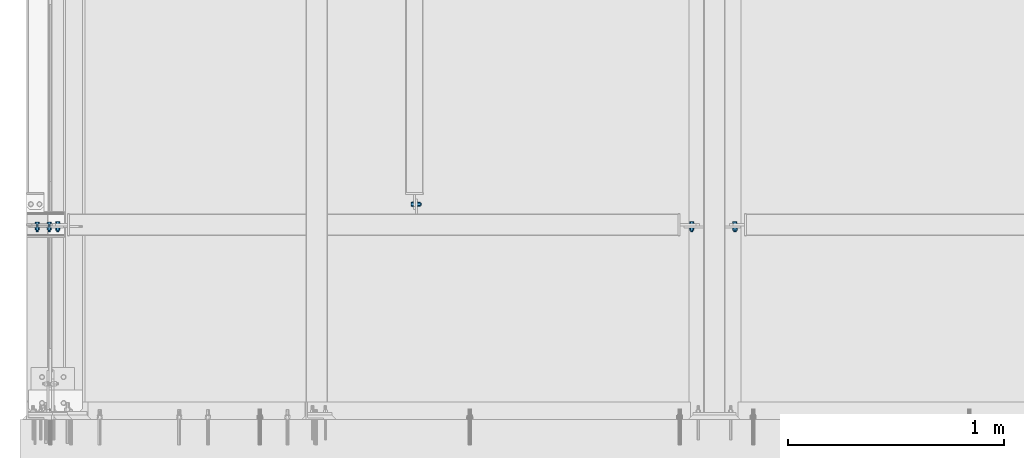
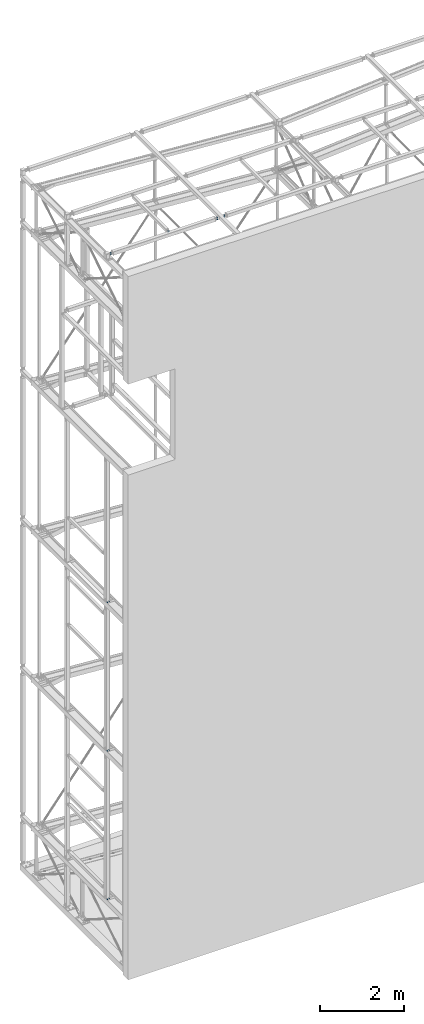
# One storey, part 231 of 271: 7 mechanical fasteners, 6 elements without a shape of their own.
"""IFC2X3 building model written with IfcOpenShell, lengths in millimetres."""

from ifc_helpers import new_model, si_unit, frame, frame_2d, origin_with_axes, origin_2d_with_axis, place, context, subcontext, project, spatial, polyline, circle_curve, parameter, trimmed, segment, composite_curve, circle, outline, extrude, source, transform, mapped, material, type_object, element, aggregate, save


model = new_model("IFC2X3")

# Units and contexts
model_context = context("Model", 3, precision=1e-05, world=origin_with_axes())
body_context = subcontext(model_context, "Body", "Model", "MODEL_VIEW")
ifc_project = project(units=[si_unit("LENGTHUNIT", "METRE", prefix="MILLI"), si_unit("AREAUNIT", "SQUARE_METRE"), si_unit("VOLUMEUNIT", "CUBIC_METRE"), si_unit("MASSUNIT", "GRAM", prefix="KILO"), si_unit("TIMEUNIT", "SECOND"), si_unit("PLANEANGLEUNIT", "RADIAN"), si_unit("SOLIDANGLEUNIT", "STERADIAN"), si_unit("THERMODYNAMICTEMPERATUREUNIT", "DEGREE_CELSIUS"), si_unit("LUMINOUSINTENSITYUNIT", "LUMEN")], contexts=[model_context])

# Site, building, storey
site_placement = place(None, origin_with_axes())
site = spatial("IfcSite", under=ifc_project, at=site_placement, Name="Undefined", CompositionType="ELEMENT")
building_placement = place(site_placement, origin_with_axes())
building = spatial("IfcBuilding", under=site, at=building_placement, Name="Undefined", CompositionType="ELEMENT")
storey_placement = place(building_placement, origin_with_axes())
storey = spatial("IfcBuildingStorey", under=building, at=storey_placement, Name="Undefined", CompositionType="ELEMENT", Elevation=0.0)

# Assembly, mechanical fastener
assembly_1_placement = place(storey_placement, origin_with_axes())
assembly_1 = element("IfcElementAssembly", 1, at=assembly_1_placement, inside=storey, AssemblyPlace="NOTDEFINED", PredefinedType="RIGID_FRAME")
ifc_material = material(Name="Undefined")
mechanical_fastener_type = type_object("IfcMechanicalFastenerType", Name="Bolt assembly")
shared_shape_1 = source(origin_with_axes(), body_context, "Body", "SweptSolid", [
    extrude(circle(Radius=6.5, at=origin_2d_with_axis()), frame((0.0, -5.1, 0.0), z_axis=(0.0, 1.0, 0.0), x_axis=(1.0, 0.0, 0.0)), (0.0, 0.0, 1.0), 10.1),
    extrude(circle(Radius=6.5, at=origin_2d_with_axis()), frame((0.0, -14.9000000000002, 0.0), z_axis=(0.0, 1.0, 0.0), x_axis=(1.0, 0.0, 0.0)), (0.0, 0.0, 1.0), 10.0),
    extrude(outline(polyline([(10.39230484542, 0.0), (5.19615242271, 9.00000000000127), (-5.19615242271, 9.00000000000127), (-10.39230484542, 0.0), (-5.19615242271, -9.00000000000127), (5.19615242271, -9.00000000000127), (10.39230484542, 0.0)])), frame((0.0, -25.0000000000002, 0.0), z_axis=(0.0, 1.0, 0.0), x_axis=(1.0, 0.0, 0.0)), (0.0, 0.0, 1.0), 7.5),
    extrude(circle(Radius=6.0, at=origin_2d_with_axis()), frame((0.0, -17.5000000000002, 0.0), z_axis=(0.0, 1.0, 0.0), x_axis=(1.0, 0.0, 0.0)), (0.0, 0.0, 1.0), 40.0),
    extrude(circle(Radius=12.0, at=origin_2d_with_axis()), frame((0.0, -17.5000000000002, 0.0), z_axis=(0.0, 1.0, 0.0), x_axis=(1.0, 0.0, 0.0)), (0.0, 0.0, 1.0), 2.5),
    extrude(circle(Radius=12.0, at=origin_2d_with_axis()), frame((0.0, 5.00000000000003, 0.0), z_axis=(0.0, 1.0, 0.0), x_axis=(1.0, 0.0, 0.0)), (0.0, 0.0, 1.0), 2.5),
    extrude(outline(polyline([(10.96965511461, 0.0), (5.484827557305, 9.50000000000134), (-5.484827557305, 9.50000000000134), (-10.96965511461, 0.0), (-5.484827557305, -9.50000000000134), (5.484827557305, -9.50000000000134), (10.96965511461, 0.0)])), frame((0.0, 7.50000000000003, 0.0), z_axis=(0.0, 1.0, 0.0), x_axis=(1.0, 0.0, 0.0)), (0.0, 0.0, 1.0), 10.0),
])
mechanical_fastener_1_placement = place(assembly_1_placement, frame((1791.37568709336, 994.32498425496, 20164.3499999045), z_axis=(0.0, 0.0, -1.0), x_axis=(0.0, 1.0, 0.0)))
mechanical_fastener_1 = element("IfcMechanicalFastener", 2, at=mechanical_fastener_1_placement, type_object=mechanical_fastener_type, material=ifc_material, Name="Bolt assembly", NominalDiameter=12.0, NominalLength=40.0, context=body_context, shape_type="MappedRepresentation", body=[
    mapped(shared_shape_1, transform((0.0, 0.0, -20.0))),
    mapped(shared_shape_1, transform((0.0, 0.0, 20.0))),
])
aggregate(assembly_1, [mechanical_fastener_1])

assembly_2_placement = place(storey_placement, origin_with_axes())
assembly_2 = element("IfcElementAssembly", 3, at=assembly_2_placement, inside=storey, AssemblyPlace="NOTDEFINED", PredefinedType="RIGID_FRAME")
mechanical_fastener_2_placement = place(assembly_2_placement, frame((133.375687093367, 889.32498425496, 20154.3499999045), z_axis=(0.0, 0.0, -1.0), x_axis=(1.0, 0.0, 0.0)))
mechanical_fastener_2 = element("IfcMechanicalFastener", 4, at=mechanical_fastener_2_placement, type_object=mechanical_fastener_type, material=ifc_material, Name="Bolt assembly", NominalDiameter=12.0, NominalLength=40.0, context=body_context, shape_type="MappedRepresentation", body=[
    mapped(shared_shape_1, transform((0.0, 0.0, -25.0))),
    mapped(shared_shape_1, transform((0.0, 0.0, 25.0))),
])

assembly_3_placement = place(storey_placement, origin_with_axes())
assembly_3 = element("IfcElementAssembly", 5, at=assembly_3_placement, inside=storey, AssemblyPlace="NOTDEFINED", PredefinedType="RIGID_FRAME")
mechanical_fastener_3_placement = place(assembly_3_placement, frame((3263.37568709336, 889.32498425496, 20154.3499999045), z_axis=(0.0, 0.0, -1.0), x_axis=(1.0, 0.0, 0.0)))
mechanical_fastener_3 = element("IfcMechanicalFastener", 6, at=mechanical_fastener_3_placement, type_object=mechanical_fastener_type, material=ifc_material, Name="Bolt assembly", NominalDiameter=12.0, NominalLength=40.0, context=body_context, shape_type="MappedRepresentation", body=[
    mapped(shared_shape_1, transform((0.0, 0.0, -25.0))),
    mapped(shared_shape_1, transform((0.0, 0.0, 25.0))),
])
aggregate(assembly_3, [mechanical_fastener_3])

assembly_4_placement = place(storey_placement, origin_with_axes())
assembly_4 = element("IfcElementAssembly", 7, at=assembly_4_placement, inside=storey, AssemblyPlace="NOTDEFINED", PredefinedType="RIGID_FRAME")
shared_shape_2 = source(origin_with_axes(), body_context, "Body", "SweptSolid", [
    extrude(circle(Radius=6.5, at=origin_2d_with_axis()), frame((0.0, 7.89999999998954, 0.0), z_axis=(0.0, 1.0, 0.0), x_axis=(1.0, 0.0, 0.0)), (0.0, 0.0, 1.0), 8.1),
    extrude(circle(Radius=6.5, at=origin_2d_with_axis()), frame((0.0, 0.0999999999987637, 0.0), z_axis=(0.0, 1.0, 0.0), x_axis=(1.0, 0.0, 0.0)), (0.0, 0.0, 1.0), 8.0),
    extrude(outline(polyline([(10.39230484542, 0.0), (5.19615242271, 9.00000000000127), (-5.19615242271, 9.00000000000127), (-10.39230484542, 0.0), (-5.19615242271, -9.00000000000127), (5.19615242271, -9.00000000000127), (10.39230484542, 0.0)])), frame((0.0, -10.0, 0.0), z_axis=(0.0, 1.0, 0.0), x_axis=(1.0, 0.0, 0.0)), (0.0, 0.0, 1.0), 7.5),
    extrude(circle(Radius=6.0, at=origin_2d_with_axis()), frame((0.0, -2.50000000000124, 0.0), z_axis=(0.0, 1.0, 0.0), x_axis=(1.0, 0.0, 0.0)), (0.0, 0.0, 1.0), 40.0),
    extrude(circle(Radius=12.0, at=origin_2d_with_axis()), frame((0.0, -2.50000000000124, 0.0), z_axis=(0.0, 1.0, 0.0), x_axis=(1.0, 0.0, 0.0)), (0.0, 0.0, 1.0), 2.5),
    extrude(circle(Radius=12.0, at=origin_2d_with_axis()), frame((0.0, 16.0, 0.0), z_axis=(0.0, 1.0, 0.0), x_axis=(1.0, 0.0, 0.0)), (0.0, 0.0, 1.0), 2.5),
    extrude(outline(polyline([(10.96965511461, 0.0), (5.484827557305, 9.50000000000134), (-5.484827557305, 9.50000000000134), (-10.96965511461, 0.0), (-5.484827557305, -9.50000000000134), (5.484827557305, -9.50000000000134), (10.96965511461, 0.0)])), frame((0.0, 18.5, 0.0), z_axis=(0.0, 1.0, 0.0), x_axis=(1.0, 0.0, 0.0)), (0.0, 0.0, 1.0), 10.0),
])
mechanical_fastener_4_placement = place(assembly_4_placement, frame((38.3756870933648, 903.052119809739, 10046.8499999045), z_axis=(0.0, 0.0, -1.0), x_axis=(1.0, 0.0, 0.0)))
mechanical_fastener_4 = element("IfcMechanicalFastener", 8, at=mechanical_fastener_4_placement, type_object=mechanical_fastener_type, material=ifc_material, Name="Bolt assembly", NominalDiameter=12.0, NominalLength=40.0, context=body_context, shape_type="MappedRepresentation", body=[
    mapped(shared_shape_2, transform((0.0, 0.0, 0.0))),
    mapped(shared_shape_2, transform((55.0, 0.0, 0.0))),
])
aggregate(assembly_4, [mechanical_fastener_4])

assembly_5_placement = place(storey_placement, origin_with_axes())
assembly_5 = element("IfcElementAssembly", 9, at=assembly_5_placement, inside=storey, AssemblyPlace="NOTDEFINED", PredefinedType="RIGID_FRAME")
mechanical_fastener_5_placement = place(assembly_5_placement, frame((38.3756870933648, 903.052119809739, 5726.84999990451), z_axis=(0.0, 0.0, -1.0), x_axis=(1.0, 0.0, 0.0)))
mechanical_fastener_5 = element("IfcMechanicalFastener", 10, at=mechanical_fastener_5_placement, type_object=mechanical_fastener_type, material=ifc_material, Name="Bolt assembly", NominalDiameter=12.0, NominalLength=40.0, context=body_context, shape_type="MappedRepresentation", body=[
    mapped(shared_shape_2, transform((0.0, 0.0, 0.0))),
    mapped(shared_shape_2, transform((55.0, 0.0, 0.0))),
])
aggregate(assembly_5, [mechanical_fastener_5])

assembly_6_placement = place(storey_placement, origin_with_axes())
assembly_6 = element("IfcElementAssembly", 11, at=assembly_6_placement, inside=storey, AssemblyPlace="NOTDEFINED", PredefinedType="RIGID_FRAME")
mechanical_fastener_6_placement = place(assembly_6_placement, frame((38.3756870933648, 903.052119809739, 1406.84999990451), z_axis=(0.0, 0.0, -1.0), x_axis=(1.0, 0.0, 0.0)))
mechanical_fastener_6 = element("IfcMechanicalFastener", 12, at=mechanical_fastener_6_placement, type_object=mechanical_fastener_type, material=ifc_material, Name="Bolt assembly", NominalDiameter=12.0, NominalLength=40.0, context=body_context, shape_type="MappedRepresentation", body=[
    mapped(shared_shape_2, transform((0.0, 0.0, 0.0))),
    mapped(shared_shape_2, transform((55.0, 0.0, 0.0))),
])
aggregate(assembly_6, [mechanical_fastener_6])

# Mechanical fastener
shared_shape_3 = source(origin_with_axes(), body_context, "Body", "SweptSolid", [
    extrude(circle(Radius=6.5, at=origin_2d_with_axis()), frame((0.0, -5.1, 0.0), z_axis=(0.0, 1.0, 0.0), x_axis=(1.0, 0.0, 0.0)), (0.0, 0.0, 1.0), 10.1),
    extrude(outline(composite_curve([segment(polyline([(-13.5, 6.5), (13.5, 6.5)]), True, "CONTINUOUS"), segment(trimmed(circle_curve(frame_2d((13.5, 0.0), x_axis=(0.0, 1.0)), 6.5), [parameter(0.0)], [parameter(3.14159265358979)], False, "PARAMETER"), True, "CONTINUOUS"), segment(polyline([(13.5, -6.5), (-13.5, -6.5)]), True, "CONTINUOUS"), segment(trimmed(circle_curve(frame_2d((-13.5, 0.0), x_axis=(0.0, -1.0)), 6.5), [parameter(0.0)], [parameter(3.14159265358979)], False, "PARAMETER"), True, "DISCONTINUOUS")], self_intersect=False)), frame((0.0, -14.9000000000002, 0.0), z_axis=(0.0, 1.0, 0.0), x_axis=(1.0, 0.0, 0.0)), (0.0, 0.0, 1.0), 10.0),
    extrude(outline(polyline([(10.39230484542, 0.0), (5.19615242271, 9.00000000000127), (-5.19615242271, 9.00000000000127), (-10.39230484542, 0.0), (-5.19615242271, -9.00000000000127), (5.19615242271, -9.00000000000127), (10.39230484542, 0.0)])), frame((0.0, -25.0000000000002, 0.0), z_axis=(0.0, 1.0, 0.0), x_axis=(1.0, 0.0, 0.0)), (0.0, 0.0, 1.0), 7.5),
    extrude(circle(Radius=6.0, at=origin_2d_with_axis()), frame((0.0, -17.5000000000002, 0.0), z_axis=(0.0, 1.0, 0.0), x_axis=(1.0, 0.0, 0.0)), (0.0, 0.0, 1.0), 40.0),
    extrude(circle(Radius=12.0, at=origin_2d_with_axis()), frame((0.0, -17.5000000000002, 0.0), z_axis=(0.0, 1.0, 0.0), x_axis=(1.0, 0.0, 0.0)), (0.0, 0.0, 1.0), 2.5),
    extrude(circle(Radius=12.0, at=origin_2d_with_axis()), frame((0.0, 5.00000000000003, 0.0), z_axis=(0.0, 1.0, 0.0), x_axis=(1.0, 0.0, 0.0)), (0.0, 0.0, 1.0), 2.5),
    extrude(outline(polyline([(10.96965511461, 0.0), (5.484827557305, 9.50000000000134), (-5.484827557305, 9.50000000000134), (-10.96965511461, 0.0), (-5.484827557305, -9.50000000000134), (5.484827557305, -9.50000000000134), (10.96965511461, 0.0)])), frame((0.0, 7.50000000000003, 0.0), z_axis=(0.0, 1.0, 0.0), x_axis=(1.0, 0.0, 0.0)), (0.0, 0.0, 1.0), 10.0),
])
mechanical_fastener_7_placement = place(assembly_2_placement, frame((3063.37568709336, 889.32498425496, 20154.3499999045), z_axis=(0.0, 0.0, 1.0), x_axis=(-1.0, 0.0, 1.38777878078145e-17)))
mechanical_fastener_7 = element("IfcMechanicalFastener", 13, at=mechanical_fastener_7_placement, type_object=mechanical_fastener_type, material=ifc_material, Name="Bolt assembly", NominalDiameter=12.0, NominalLength=40.0, context=body_context, shape_type="MappedRepresentation", body=[
    mapped(shared_shape_3, transform((0.0, 0.0, -25.0))),
    mapped(shared_shape_3, transform((0.0, 0.0, 25.0))),
])

aggregate(assembly_2, [mechanical_fastener_2, mechanical_fastener_7])

save(model, "model.ifc")
